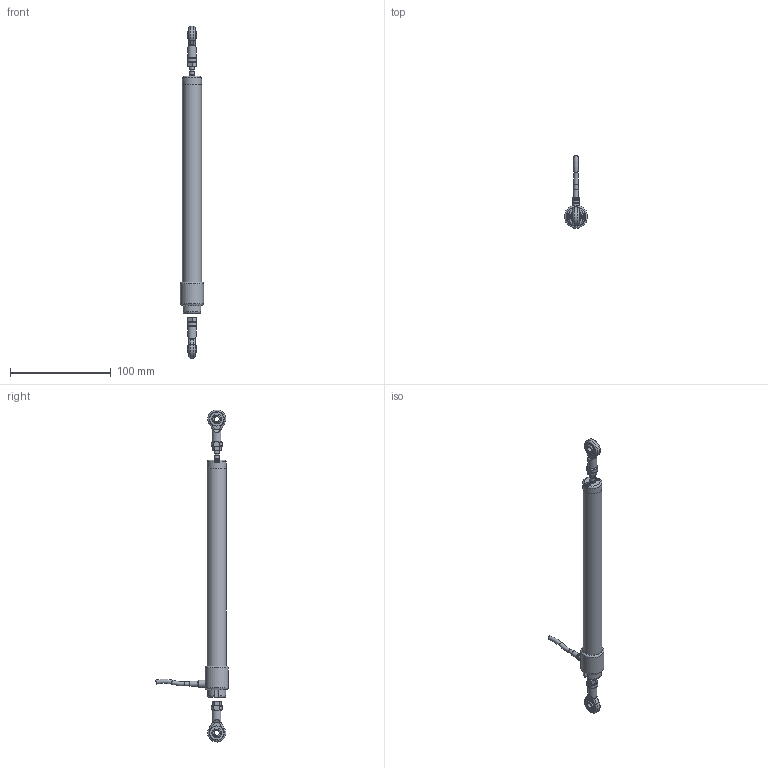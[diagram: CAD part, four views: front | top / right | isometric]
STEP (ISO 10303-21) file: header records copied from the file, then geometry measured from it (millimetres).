
FILE_DESCRIPTION(/* description */ ('STEP AP203'),/* implementation_level */ '2;1');
FILE_NAME(/* name */ 'RC20 150 G IP60',/* time_stamp */ '2025-04-03T11:02:25+02:00',/* author */ ('License CC BY-ND 4.0'),/* organization */ ('CADENAS'),/* preprocessor_version */ 'ST-DEVELOPER v19.3',/* originating_system */ 'PARTsolutions',/* authorisation */ ' ');
FILE_SCHEMA (('CONFIG_CONTROL_DESIGN'));
Length unit declared in the file: millimetre
Products named in the file (7): RC20 150 G IP60; 263150PZ34-A; 110PZ34N; 112PZ34N; EWC6; RE5; 138150PZ34A
Assembly tree (7 placements, depth 2):
  RC20 150 G IP60
    263150PZ34-A
    110PZ34N
    112PZ34N
    EWC6
    RE5  x2
    138150PZ34A
Bounding box: 23 x 71.99 x 328.88 mm (x, y, z)
Volume: 78581.8 mm3; surface area: 26661.2 mm2
Topology: 7 solids, 7 shells, 222 faces, 515 edges, 329 vertices
Faces by surface type: plane 122, cylinder 54, torus 26, cone 12, sphere 8
Full cylindrical faces by diameter (mm): 3.8 x1, 4 x3, 4.134 x4, 5 x9, 5.2 x1, 5.3 x2, 6 x4, 6.1 x1, 7.2 x1, 8.9 x2, 13.9 x4, 19 x3, 23 x1
Entity records: 5979 total; most frequent: CARTESIAN_POINT 892, DIRECTION 846, ORIENTED_EDGE 678, AXIS2_PLACEMENT_3D 346, EDGE_CURVE 339, FACE_BOUND 256, EDGE_LOOP 254, VERTEX_POINT 251
